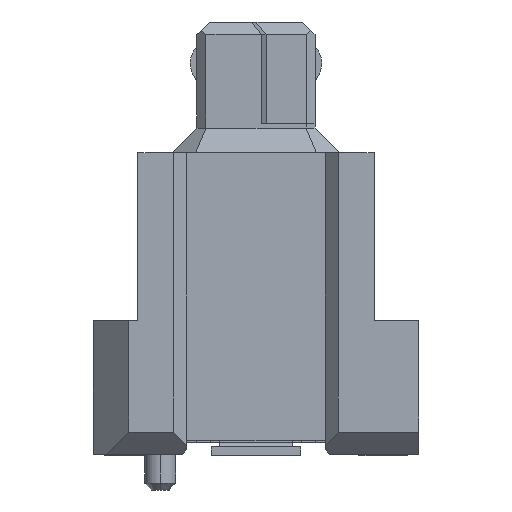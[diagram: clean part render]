
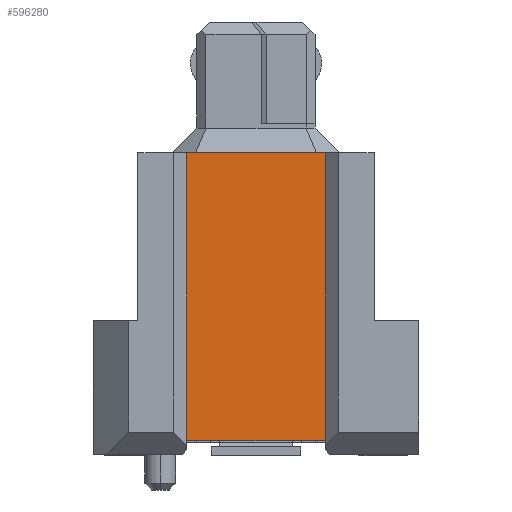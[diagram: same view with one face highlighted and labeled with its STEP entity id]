
A CAD part, left-side view. The second image highlights one B-rep face of the part: STEP entity #596280.
In plain terms, the highlighted planar face has unit normal (-1, 0, 0).
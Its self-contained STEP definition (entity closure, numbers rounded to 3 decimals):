
#27970=CARTESIAN_POINT('',(4.968,-5.06,1.1));
#27980=VERTEX_POINT('',#27970);
#28010=CARTESIAN_POINT('',(4.968,-5.06,0.));
#28020=DIRECTION('',(0.,0.,-1.));
#28030=VECTOR('',#28020,1.);
#28040=LINE('',#28010,#28030);
#28050=CARTESIAN_POINT('',(4.968,-5.06,4.2));
#28060=VERTEX_POINT('',#28050);
#28070=EDGE_CURVE('',#28060,#27980,#28040,.T.);
#86720=CARTESIAN_POINT('',(4.968,1.41,4.2));
#86730=VERTEX_POINT('',#86720);
#86760=CARTESIAN_POINT('',(4.968,1.41,0.));
#86770=DIRECTION('',(0.,0.,1.));
#86780=VECTOR('',#86770,1.);
#86790=LINE('',#86760,#86780);
#86800=CARTESIAN_POINT('',(4.968,1.41,1.1));
#86810=VERTEX_POINT('',#86800);
#86820=EDGE_CURVE('',#86810,#86730,#86790,.T.);
#594800=CARTESIAN_POINT('',(4.968,0.,4.2));
#594810=DIRECTION('',(0.,-1.,0.));
#594820=VECTOR('',#594810,1.);
#594830=LINE('',#594800,#594820);
#594840=EDGE_CURVE('',#86730,#28060,#594830,.T.);
#596120=CARTESIAN_POINT('',(4.968,-5.36,5.3));
#596130=DIRECTION('',(-1.,0.,0.));
#596140=DIRECTION('',(0.,1.,0.));
#596150=AXIS2_PLACEMENT_3D('',#596120,#596130,#596140);
#596160=PLANE('',#596150);
#596170=CARTESIAN_POINT('',(4.968,0.,1.1));
#596180=DIRECTION('',(0.,-1.,0.));
#596190=VECTOR('',#596180,1.);
#596200=LINE('',#596170,#596190);
#596210=EDGE_CURVE('',#86810,#27980,#596200,.T.);
#596220=ORIENTED_EDGE('',*,*,#596210,.T.);
#596230=ORIENTED_EDGE('',*,*,#86820,.F.);
#596240=ORIENTED_EDGE('',*,*,#594840,.F.);
#596250=ORIENTED_EDGE('',*,*,#28070,.F.);
#596260=EDGE_LOOP('',(#596250,#596240,#596230,#596220));
#596270=FACE_OUTER_BOUND('',#596260,.T.);
#596280=ADVANCED_FACE('',(#596270),#596160,.T.);
